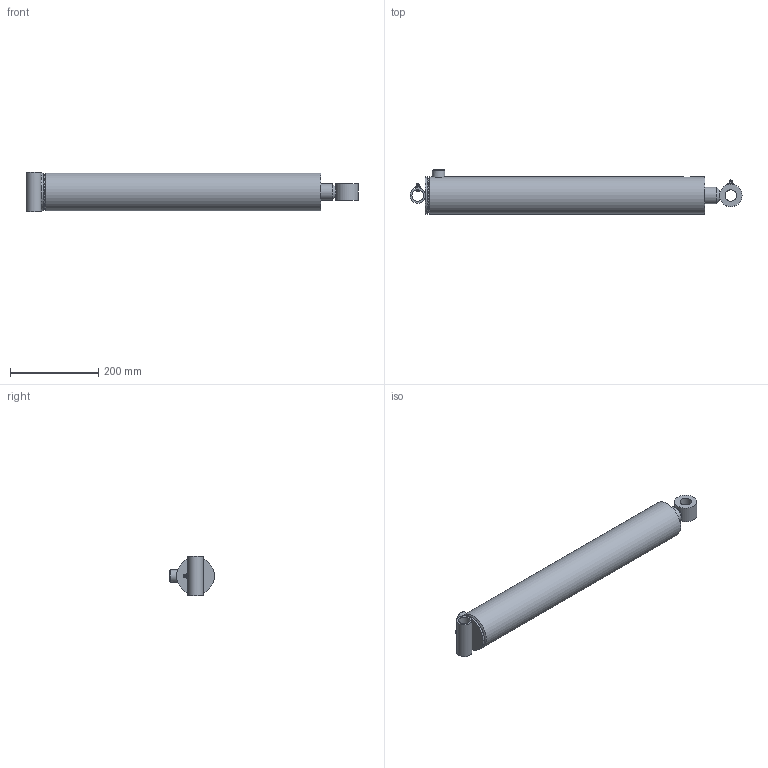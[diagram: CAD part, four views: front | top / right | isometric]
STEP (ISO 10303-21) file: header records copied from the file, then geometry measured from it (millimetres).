
FILE_DESCRIPTION((''),'2;1');
FILE_NAME('C:\Vault\Workspace\Vest\PMC-8320.stp','2010-09-29T13:50:53',('kneifld'),(''),'Autodesk Inventor 2010','Autodesk Inventor 2010','');
FILE_SCHEMA(('AUTOMOTIVE_DESIGN { 1 0 10303 214 1 1 1 1 }'));
Length unit declared in the file: inch
Products named in the file (22): PMC-8320; 061500051; 051500069; 161500007V; 210400412V; 200014403V; 081500401V; 020800284; 010800815; 210400528V; 071500021V; 220000210V; 250001222V; 240020059V; 240061334V; 240000334V; 230001300V; 240000022V; 240004006V; 240034334V; 200018003V; 270010002V
Assembly tree (25 placements, depth 3):
  PMC-8320
    061500051
      051500069
      161500007V
      210400412V
      200014403V
    081500401V
    020800284
      010800815
      210400528V
    071500021V
    220000210V
    250001222V
    240020059V
    240061334V
    240000334V  x2
    230001300V
    240000022V
    240004006V
    240034334V  x2
    200018003V  x2
    270010002V  x2
Bounding box: 754.05 x 101.6 x 88.9 mm (x, y, z)
Volume: 1931123.4 mm3; surface area: 542179.8 mm2
Topology: 23 solids, 23 shells, 243 faces, 497 edges, 302 vertices
Faces by surface type: plane 115, cylinder 62, cone 36, torus 18, bspline 10, sphere 2
Full cylindrical faces by diameter (mm): 1.524 x2, 2.794 x2, 5.486 x1, 8.839 x1, 9.08 x2, 12.7 x1, 23.813 x1, 25.349 x1, 25.476 x1, 25.908 x1, 26.162 x1, 27.94 x1, 28.575 x1, 34.925 x1, 38.1 x2, 38.176 x2, 39.052 x1, 41.91 x1, 46.025 x2, 46.673 x1, 47.625 x1, 49.2 x1, 50.8 x1, 55.55 x1, 59.69 x1, 66.802 x1, 67.31 x3, 67.564 x1, 68.072 x1, 71.425 x1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
Entity records: 6152 total; most frequent: CARTESIAN_POINT 1633, DIRECTION 905, ORIENTED_EDGE 588, AXIS2_PLACEMENT_3D 412, EDGE_LOOP 351, EDGE_CURVE 294, VERTEX_POINT 235, FACE_OUTER_BOUND 203
